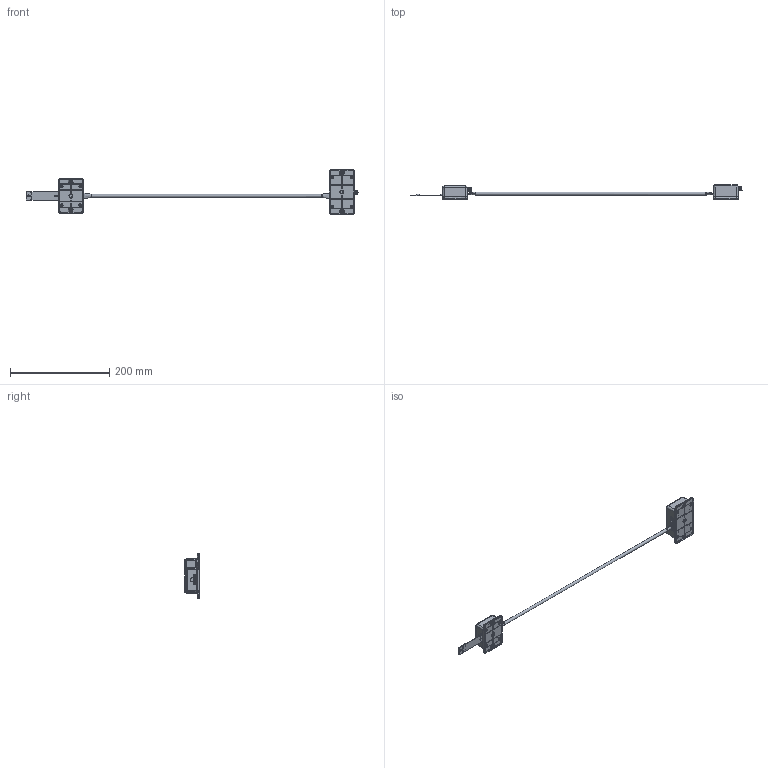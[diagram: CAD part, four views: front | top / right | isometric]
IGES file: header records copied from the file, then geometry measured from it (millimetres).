
Global section: file name: 0一体; native system: unknown; preprocessor: unknown; author: unknown; organization: unknown; date: 20210301.143340; units: millimetre
Bounding box: 668.03 x 29.9 x 90.4 mm (x, y, z)
Volume: 82242.7 mm3; surface area: 86925.6 mm2
Topology: 87 solids, 87 shells, 2863 faces, 7442 edges, 4875 vertices
Faces by surface type: bspline 2863
